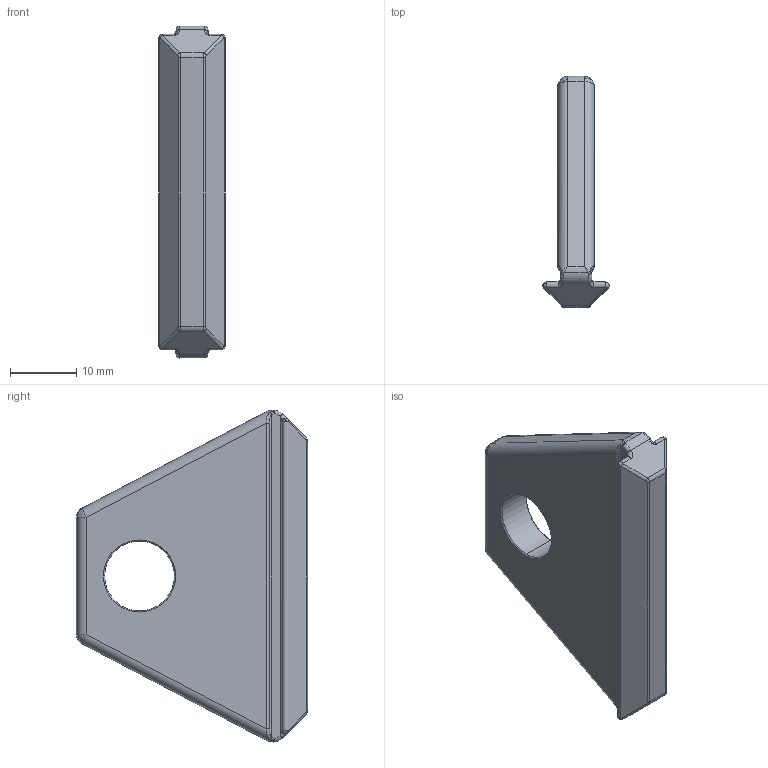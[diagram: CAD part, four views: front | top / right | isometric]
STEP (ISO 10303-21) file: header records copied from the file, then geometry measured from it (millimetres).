
FILE_DESCRIPTION (( 'STEP AP214' ), '1' );
FILE_NAME ('6.03.spth.STEP', '2015-05-31T08:07:19', ( '' ), ( '' ), 'SwSTEP 2.0', 'SolidWorks 2015', '' );
FILE_SCHEMA (( 'AUTOMOTIVE_DESIGN' ));
Length unit declared in the file: millimetre
Products named in the file (1): 6.03.spth
Bounding box: 10 x 34.8 x 50 mm (x, y, z)
Volume: 6740.2 mm3; surface area: 3491.5 mm2
Topology: 1 solids, 1 shells, 98 faces, 235 edges, 129 vertices
Faces by surface type: cylinder 42, bspline 38, plane 14, cone 4
Entity records: 3662 total; most frequent: CARTESIAN_POINT 1615, ORIENTED_EDGE 450, DIRECTION 392, EDGE_CURVE 225, AXIS2_PLACEMENT_3D 155, VERTEX_POINT 129, EDGE_LOOP 100, FACE_OUTER_BOUND 98
